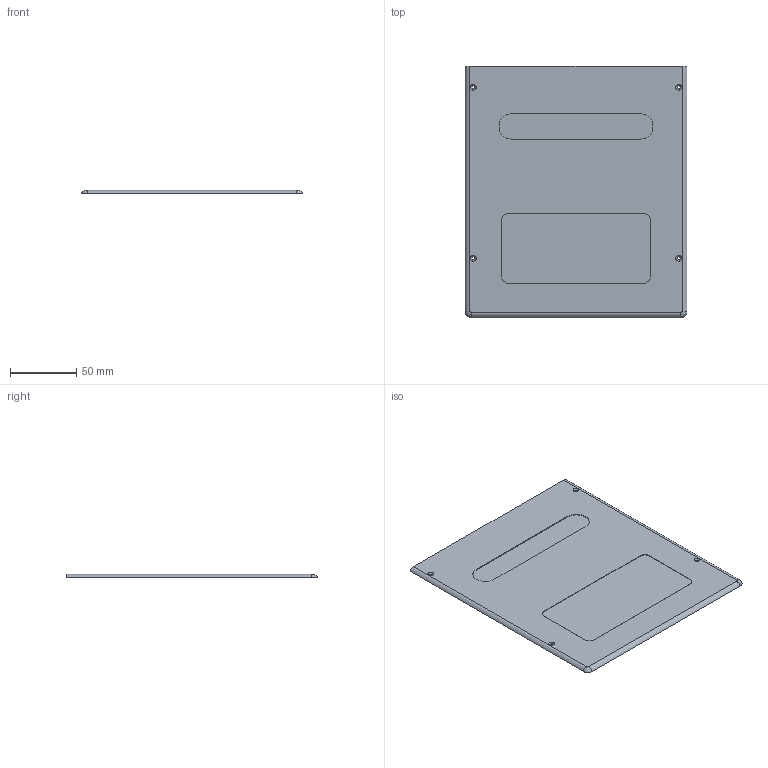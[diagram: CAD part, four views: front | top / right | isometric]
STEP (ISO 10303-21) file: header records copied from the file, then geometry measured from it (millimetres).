
FILE_DESCRIPTION(('Open CASCADE Model'),'2;1');
FILE_NAME('Open CASCADE Shape Model','2026-11-07T21:52:16',('Author'),( 'Open CASCADE'),'Open CASCADE STEP processor 7.9','Open CASCADE 7.9' ,'Unknown');
FILE_SCHEMA(('AUTOMOTIVE_DESIGN { 1 0 10303 214 1 1 1 1 }'));
Length unit declared in the file: millimetre
Products named in the file (1): Open CASCADE STEP translator 7.9 64
Bounding box: 167.42 x 189.51 x 2.5 mm (x, y, z)
Volume: 74286.3 mm3; surface area: 64726.8 mm2
Topology: 1 solids, 1 shells, 34 faces, 86 edges, 56 vertices
Faces by surface type: cylinder 15, plane 13, cone 4, revolution 2
Full cylindrical faces by diameter (mm): 2.3 x4
Entity records: 2410 total; most frequent: CARTESIAN_POINT 688, DIRECTION 313, ORIENTED_EDGE 172, PCURVE 172, DEFINITIONAL_REPRESENTATION 172, LINE 154, VECTOR 154, EDGE_CURVE 86
